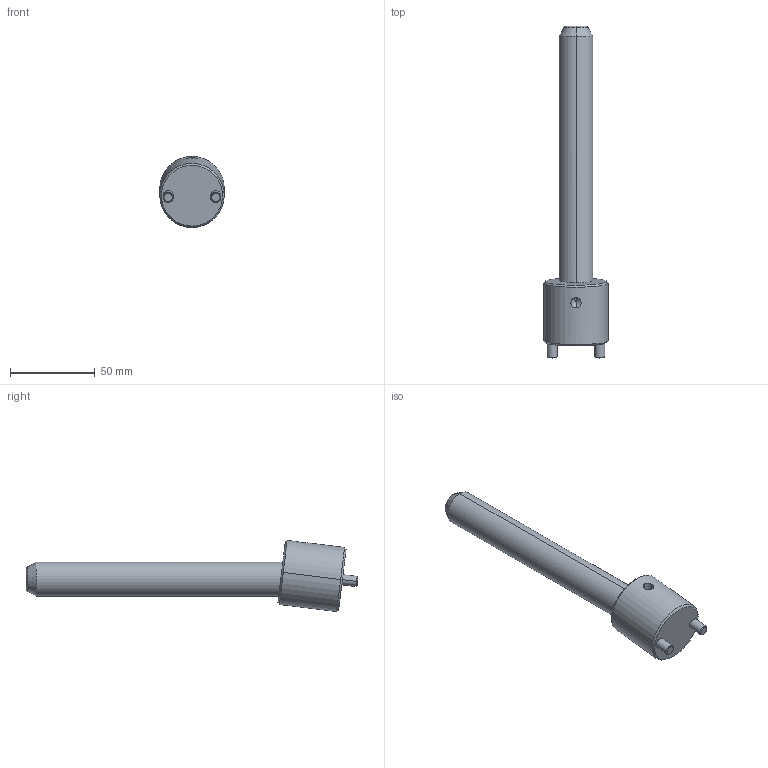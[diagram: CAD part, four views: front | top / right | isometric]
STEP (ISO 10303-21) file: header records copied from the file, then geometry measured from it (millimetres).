
FILE_DESCRIPTION(('CATIA V5 STEP Exchange'),'2;1');
FILE_NAME('C:\Users\Raffaele\Desktop\3D BOLEX\3D FILES CF BOLEX\19-INCLINED ASSEMBLY REF_CI\CI0720150.stp','2019-06-24T07:09:04+00:00',('none'),('none'),'CATIA Version 5 Release 20 GA (IN-10)','CATIA V5 STEP AP203','none');
FILE_SCHEMA(('CONFIG_CONTROL_DESIGN'));
Length unit declared in the file: millimetre
Products named in the file (1): CI0720150
Assembly tree (2 placements, depth 2):
  CI0720150
    #58
    #572
Bounding box: 38 x 195.46 x 41.86 mm (x, y, z)
Volume: 87203.6 mm3; surface area: 20608.2 mm2
Topology: 2 solids, 2 shells, 39 faces, 82 edges, 47 vertices
Faces by surface type: cone 14, cylinder 14, plane 7, torus 4
Entity records: 1506 total; most frequent: CARTESIAN_POINT 649, ORIENTED_EDGE 160, DIRECTION 144, EDGE_CURVE 80, AXIS2_PLACEMENT_3D 71, VERTEX_POINT 47, EDGE_LOOP 43, ADVANCED_FACE 39
